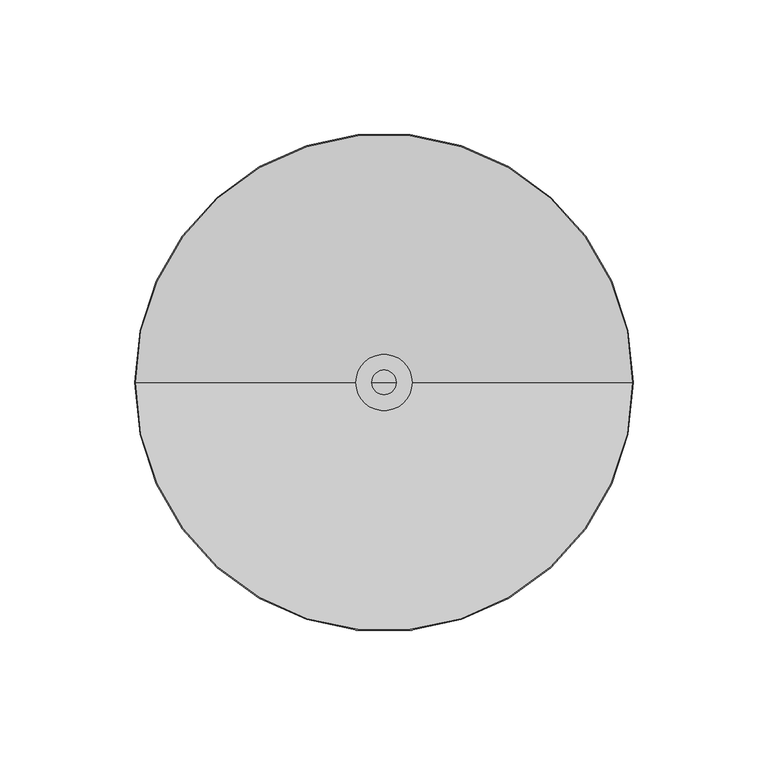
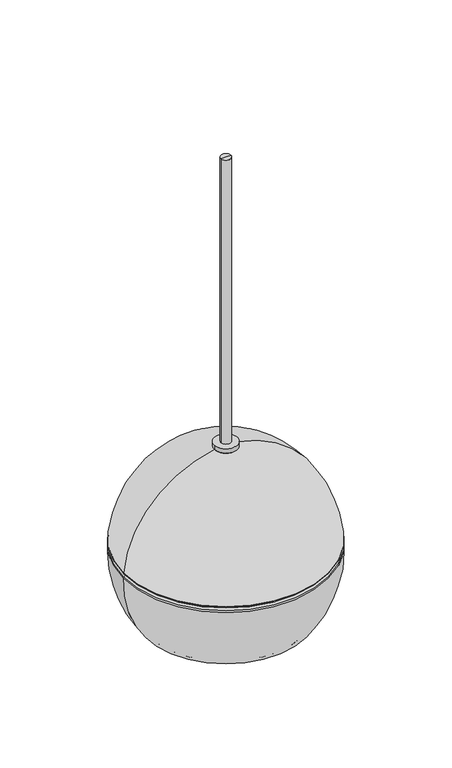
"""IFC4 building model written with IfcOpenShell, lengths in millimetres: proxy geometry, 221216 BIM Data_DL-K16-130T-EN54 : DL-K 16-130/T-EN54."""

from ifc_helpers import new_model, si_unit, point, frame, origin, origin_2d, place, context, project, spatial, polyline, circle_curve, ellipse_curve, trimmed, segment, composite_curve, outline, extrude, source, transform, mapped, element, save
from ifc_brep_helpers import plane_surface, cylinder_surface, revolved_surface, advanced_brep


def communication_devices_e43f43e1(model_context):
    return source(origin(), model_context, "Body", "SolidModel", [
        extrude(outline(composite_curve([segment(trimmed(circle_curve(origin_2d(), 10.4017059), [point((10.4017059, 0.0))], [point((-10.4017059, 0.0))], False, "CARTESIAN"), True, "CONTINUOUS"), segment(trimmed(circle_curve(origin_2d(), 10.4017059), [point((-10.4017059, 0.0))], [point((10.4017059, 0.0))], False, "CARTESIAN"), True, "CONTINUOUS")], self_intersect=False)), frame((0.0, 0.0, 157.0), z_axis=(0.0, 0.0, 1.0), x_axis=(1.0, 0.0, 0.0)), (0.0, 0.0, 1.0), 3.9607511),
        advanced_brep(
        [(4.5469117, 0.0, 431.25), (-4.5469117, 0.0, 431.25), (0.0, 0.0, 431.25), (4.5469117, 0.0, 160.7753513), (-4.5469117, 0.0, 160.7753513), (0.0, 0.0, 160.7753513)],
        [
            (0, 1, circle_curve(frame((0.0, 0.0, 431.25), z_axis=(0.0, 0.0, 1.0), x_axis=(-1.0, 0.0, 0.0)), 4.5469117)),
            (1, 2),
            (2, 0),
            (1, 0, circle_curve(frame((0.0, 0.0, 431.25), z_axis=(0.0, 0.0, 1.0), x_axis=(-1.0, 0.0, 0.0)), 4.5469117)),
            (3, 4, circle_curve(frame((0.0, 0.0, 160.7753513), z_axis=(0.0, 0.0, 1.0), x_axis=(-1.0, 0.0, 0.0)), 4.5469117)),
            (4, 1),
            (0, 3),
            (4, 3, circle_curve(frame((0.0, 0.0, 160.7753513), z_axis=(0.0, 0.0, 1.0), x_axis=(-1.0, 0.0, 0.0)), 4.5469117)),
            (5, 4),
            (3, 5),
        ],
        [
            plane_surface(frame((0.0, 0.0, 431.25), z_axis=(0.0, 0.0, 1.0), x_axis=(-1.0, 0.0, 0.0))),
            cylinder_surface(frame((0.0, 0.0, 424.9889148), z_axis=(0.0, 0.0, -1.0), x_axis=(-1.0, 0.0, 0.0)), 4.5469117),
            plane_surface(frame((0.0, 0.0, 160.7753513), z_axis=(0.0, 0.0, -1.0), x_axis=(-1.0, 0.0, 0.0))),
        ],
        [
            (0, [[1, 2, 3]]),
            (0, [[4, -3, -2]]),
            (1, [[5, 6, -1, 7]]),
            (1, [[8, -7, -4, -6]]),
            (2, [[9, -5, 10]]),
            (2, [[-10, -8, -9]]),
        ],
    ),
        advanced_brep(
        [(69.8611013, 0.0, 1.8271612), (-69.8611013, 0.0, 1.8271612), (0.0, 0.0, 1.8271612), (69.8611013, 0.0, 0.7039085), (-69.8611013, 0.0, 0.7039085), (0.0, 0.0, -0.53125), (-68.6259428, 0.0, -0.53125), (68.6259428, 0.0, -0.53125)],
        [
            (0, 1, circle_curve(frame((0.0, 0.0, 1.8271612), z_axis=(0.0, 0.0, 1.0), x_axis=(-1.0, 0.0, 0.0)), 69.8611013)),
            (1, 2),
            (2, 0),
            (1, 0, circle_curve(frame((0.0, 0.0, 1.8271612), z_axis=(0.0, 0.0, 1.0), x_axis=(-1.0, 0.0, 0.0)), 69.8611013)),
            (3, 4, circle_curve(frame((0.0, 0.0, 0.7039085), z_axis=(0.0, 0.0, 1.0), x_axis=(-1.0, 0.0, 0.0)), 69.8611013)),
            (4, 1),
            (0, 3),
            (4, 3, circle_curve(frame((0.0, 0.0, 0.7039085), z_axis=(0.0, 0.0, 1.0), x_axis=(-1.0, 0.0, 0.0)), 69.8611013)),
            (5, 6),
            (6, 7, circle_curve(frame((0.0, 0.0, -0.53125), z_axis=(0.0, 0.0, -1.0), x_axis=(-1.0, 0.0, 0.0)), 68.6259428)),
            (7, 5),
            (7, 6, circle_curve(frame((0.0, 0.0, -0.53125), z_axis=(0.0, 0.0, -1.0), x_axis=(-1.0, 0.0, 0.0)), 68.6259428)),
            (6, 4, circle_curve(frame((-68.6259428, 0.0, 0.7039085), z_axis=(0.0, 1.0, 0.0), x_axis=(1.0, 0.0, 0.0)), 1.2351585)),
            (3, 7, circle_curve(frame((68.6259428, 0.0, 0.7039085), z_axis=(0.0, 1.0, 0.0), x_axis=(-1.0, 0.0, 0.0)), 1.2351585)),
        ],
        [
            plane_surface(frame((0.0, 0.0, 1.8271612), z_axis=(0.0, 0.0, 1.0), x_axis=(-1.0, 0.0, 0.0))),
            cylinder_surface(frame((0.0, 0.0, 0.25), z_axis=(0.0, 0.0, -1.0), x_axis=(-1.0, 0.0, 0.0)), 69.8611013),
            plane_surface(frame((0.0, 0.0, -0.53125), z_axis=(0.0, 0.0, -1.0), x_axis=(-1.0, 0.0, 0.0))),
            revolved_surface(trimmed(ellipse_curve(frame((-68.6259428, 0.0, 0.7039085), z_axis=(0.0, -1.0, 0.0), x_axis=(1.0, 0.0, 0.0)), 1.2351585, 1.2351585), [point((-69.8611013, 0.0, 0.7039085))], [point((-68.6259428, 0.0, -0.53125))], True, "CARTESIAN"), (0.0, 0.0, 0.25), (0.0, 0.0, -1.0)),
        ],
        [
            (0, [[1, 2, 3]]),
            (0, [[4, -3, -2]]),
            (1, [[5, 6, -1, 7]]),
            (1, [[8, -7, -4, -6]]),
            (2, [[9, 10, 11]]),
            (2, [[-11, 12, -9]]),
            (3, [[-10, 13, -5, 14]]),
            (3, [[-12, -14, -8, -13]]),
        ],
    ),
        advanced_brep(
        [(72.5, 0.0, 0.0), (-72.5, 0.0, 0.0), (-92.5128954, 0.0, 62.8531212), (92.5128954, 0.0, 62.8531212), (69.8516928, 0.0, 0.0), (-69.8516928, 0.0, 0.0), (69.8516928, 0.0, 3.6649979), (-69.8516928, 0.0, 3.6649979), (0.0, 0.0, 3.6649979), (7.6035768, 0.0, 157.0), (-7.6035768, 0.0, 157.0), (0.0, 0.0, 157.0), (10.3375061, 0.0, 156.7722396), (-10.3375061, 0.0, 156.7722396), (92.2053327, 0.0, 68.028242), (-92.2053327, 0.0, 68.028242), (90.4124933, 0.0, 65.7265384), (-90.4124933, 0.0, 65.7265384), (-91.9129953, 0.0, 67.2270403), (91.9129953, 0.0, 67.2270403), (91.9208596, 0.0, 64.2181721), (-91.9208596, 0.0, 64.2181721)],
        [
            (0, 1, circle_curve(frame((0.0, 0.0, 0.0), z_axis=(0.0, 0.0, 1.0), x_axis=(-1.0, 0.0, 0.0)), 72.5)),
            (1, 2, circle_curve(frame((5.9667442, 0.0, 59.5970747), z_axis=(0.0, 1.0, 0.0), x_axis=(1.0, 0.0, 0.0)), 98.5334525)),
            (2, 3, circle_curve(frame((0.0, 0.0, 62.8531212), z_axis=(0.0, 0.0, -1.0), x_axis=(-1.0, 0.0, 0.0)), 92.5128954)),
            (3, 0, circle_curve(frame((-5.9667442, 0.0, 59.5970747), z_axis=(0.0, 1.0, 0.0), x_axis=(-1.0, 0.0, 0.0)), 98.5334525)),
            (1, 0, circle_curve(frame((0.0, 0.0, 0.0), z_axis=(0.0, 0.0, 1.0), x_axis=(-1.0, 0.0, 0.0)), 72.5)),
            (3, 2, circle_curve(frame((0.0, 0.0, 62.8531212), z_axis=(0.0, 0.0, -1.0), x_axis=(-1.0, 0.0, 0.0)), 92.5128954)),
            (4, 5, circle_curve(frame((0.0, 0.0, 0.0), z_axis=(0.0, 0.0, 1.0), x_axis=(-1.0, 0.0, 0.0)), 69.8516928)),
            (5, 1),
            (0, 4),
            (5, 4, circle_curve(frame((0.0, 0.0, 0.0), z_axis=(0.0, 0.0, 1.0), x_axis=(-1.0, 0.0, 0.0)), 69.8516928)),
            (6, 7, circle_curve(frame((0.0, 0.0, 3.6649979), z_axis=(0.0, 0.0, 1.0), x_axis=(-1.0, 0.0, 0.0)), 69.8516928)),
            (7, 5),
            (4, 6),
            (7, 6, circle_curve(frame((0.0, 0.0, 3.6649979), z_axis=(0.0, 0.0, 1.0), x_axis=(-1.0, 0.0, 0.0)), 69.8516928)),
            (8, 7),
            (6, 8),
            (9, 10, circle_curve(frame((0.0, 0.0, 157.0), z_axis=(0.0, 0.0, 1.0), x_axis=(-1.0, 0.0, 0.0)), 7.6035768)),
            (10, 11),
            (11, 9),
            (10, 9, circle_curve(frame((0.0, 0.0, 157.0), z_axis=(0.0, 0.0, 1.0), x_axis=(-1.0, 0.0, 0.0)), 7.6035768)),
            (12, 13, circle_curve(frame((0.0, 0.0, 156.7722396), z_axis=(0.0, 0.0, 1.0), x_axis=(-1.0, 0.0, 0.0)), 10.3375061)),
            (13, 10, circle_curve(frame((-7.6035768, 0.0, 140.4777138), z_axis=(0.0, 1.0, 0.0), x_axis=(1.0, 0.0, 0.0)), 16.5222862)),
            (9, 12, circle_curve(frame((7.6035768, 0.0, 140.4777138), z_axis=(0.0, 1.0, 0.0), x_axis=(-1.0, 0.0, 0.0)), 16.5222862)),
            (13, 12, circle_curve(frame((0.0, 0.0, 156.7722396), z_axis=(0.0, 0.0, 1.0), x_axis=(-1.0, 0.0, 0.0)), 10.3375061)),
            (14, 15, circle_curve(frame((0.0, 0.0, 68.028242), z_axis=(0.0, 0.0, 1.0), x_axis=(-1.0, 0.0, 0.0)), 92.2053327)),
            (15, 13, circle_curve(frame((5.9667442, 0.0, 59.5970747), z_axis=(0.0, 1.0, 0.0), x_axis=(1.0, 0.0, 0.0)), 98.5334525)),
            (12, 14, circle_curve(frame((-5.9667442, 0.0, 59.5970747), z_axis=(0.0, 1.0, 0.0), x_axis=(-1.0, 0.0, 0.0)), 98.5334525)),
            (15, 14, circle_curve(frame((0.0, 0.0, 68.028242), z_axis=(0.0, 0.0, 1.0), x_axis=(-1.0, 0.0, 0.0)), 92.2053327)),
            (16, 17, circle_curve(frame((0.0, 0.0, 65.7265384), z_axis=(0.0, 0.0, 1.0), x_axis=(-1.0, 0.0, 0.0)), 90.4124933)),
            (17, 18),
            (18, 19, circle_curve(frame((0.0, 0.0, 67.2270403), z_axis=(0.0, 0.0, -1.0), x_axis=(-1.0, 0.0, 0.0)), 91.9129953)),
            (19, 16),
            (17, 16, circle_curve(frame((0.0, 0.0, 65.7265384), z_axis=(0.0, 0.0, 1.0), x_axis=(-1.0, 0.0, 0.0)), 90.4124933)),
            (19, 18, circle_curve(frame((0.0, 0.0, 67.2270403), z_axis=(0.0, 0.0, -1.0), x_axis=(-1.0, 0.0, 0.0)), 91.9129953)),
            (18, 15, circle_curve(frame((-91.1982808, 0.0, 67.9417548), z_axis=(0.0, 1.0, 0.0), x_axis=(1.0, 0.0, 0.0)), 1.0107589)),
            (14, 19, circle_curve(frame((91.1982808, 0.0, 67.9417548), z_axis=(0.0, 1.0, 0.0), x_axis=(-1.0, 0.0, 0.0)), 1.0107589)),
            (20, 21, circle_curve(frame((0.0, 0.0, 64.2181721), z_axis=(0.0, 0.0, 1.0), x_axis=(-1.0, 0.0, 0.0)), 91.9208596)),
            (21, 17),
            (16, 20),
            (21, 20, circle_curve(frame((0.0, 0.0, 64.2181721), z_axis=(0.0, 0.0, 1.0), x_axis=(-1.0, 0.0, 0.0)), 91.9208596)),
            (2, 21, circle_curve(frame((-90.4888886, 0.0, 62.7862011), z_axis=(0.0, 1.0, 0.0), x_axis=(1.0, 0.0, 0.0)), 2.0251128)),
            (20, 3, circle_curve(frame((90.4888886, 0.0, 62.7862011), z_axis=(0.0, 1.0, 0.0), x_axis=(-1.0, 0.0, 0.0)), 2.0251128)),
        ],
        [
            revolved_surface(trimmed(ellipse_curve(frame((5.9667442, 0.0, 59.5970747), z_axis=(0.0, -1.0, 0.0), x_axis=(1.0, 0.0, 0.0)), 98.5334525, 98.5334525), [point((-92.5128954, 0.0, 62.8531212))], [point((-72.5, 0.0, 0.0))], True, "CARTESIAN"), (0.0, 0.0, 122.0), (0.0, 0.0, -1.0)),
            plane_surface(frame((0.0, 0.0, 0.0), z_axis=(0.0, 0.0, -1.0), x_axis=(-1.0, 0.0, 0.0))),
            revolved_surface(polyline([(-69.8516928, 0.0, 0.0), (-69.8516928, 0.0, 3.664997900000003)]), (0.0, 0.0, 122.0), (0.0, 0.0, -1.0)),
            plane_surface(frame((0.0, 0.0, 3.6649979), z_axis=(0.0, 0.0, -1.0), x_axis=(-1.0, 0.0, 0.0))),
            plane_surface(frame((0.0, 0.0, 157.0), z_axis=(0.0, 0.0, 1.0), x_axis=(-1.0, 0.0, 0.0))),
            revolved_surface(trimmed(ellipse_curve(frame((-7.6035768, 0.0, 140.4777138), z_axis=(0.0, -1.0, 0.0), x_axis=(1.0, 0.0, 0.0)), 16.5222862, 16.5222862), [point((-7.6035768, 0.0, 157.0))], [point((-10.3375061, 0.0, 156.7722396))], True, "CARTESIAN"), (0.0, 0.0, 122.0), (0.0, 0.0, -1.0)),
            revolved_surface(trimmed(ellipse_curve(frame((5.9667442, 0.0, 59.5970747), z_axis=(0.0, -1.0, 0.0), x_axis=(1.0, 0.0, 0.0)), 98.5334525, 98.5334525), [point((-10.3375061, 0.0, 156.7722396))], [point((-92.2053327, 0.0, 68.028242))], True, "CARTESIAN"), (0.0, 0.0, 122.0), (0.0, 0.0, -1.0)),
            revolved_surface(polyline([(-91.9129953, 0.0, 67.2270403), (-90.4124933, 0.0, 65.7265384)]), (0.0, 0.0, 122.0), (0.0, 0.0, -1.0)),
            revolved_surface(trimmed(ellipse_curve(frame((-91.1982808, 0.0, 67.9417548), z_axis=(0.0, -1.0, 0.0), x_axis=(1.0, 0.0, 0.0)), 1.0107589, 1.0107589), [point((-92.2053327, 0.0, 68.028242))], [point((-91.9129953, 0.0, 67.2270403))], True, "CARTESIAN"), (0.0, 0.0, 122.0), (0.0, 0.0, -1.0)),
            revolved_surface(polyline([(-90.4124933, 0.0, 65.7265384), (-91.9208596, 0.0, 64.2181721)]), (0.0, 0.0, 122.0), (0.0, 0.0, -1.0)),
            revolved_surface(trimmed(ellipse_curve(frame((-90.4888886, 0.0, 62.7862011), z_axis=(0.0, -1.0, 0.0), x_axis=(1.0, 0.0, 0.0)), 2.0251128, 2.0251128), [point((-91.9208596, 0.0, 64.2181721))], [point((-92.5128954, 0.0, 62.8531212))], True, "CARTESIAN"), (0.0, 0.0, 122.0), (0.0, 0.0, -1.0)),
        ],
        [
            (0, [[1, 2, 3, 4]]),
            (0, [[5, -4, 6, -2]]),
            (1, [[7, 8, -1, 9]]),
            (1, [[10, -9, -5, -8]]),
            (2, [[11, 12, -7, 13]]),
            (2, [[14, -13, -10, -12]]),
            (3, [[15, -11, 16]]),
            (3, [[-16, -14, -15]]),
            (4, [[17, 18, 19]]),
            (4, [[20, -19, -18]]),
            (5, [[21, 22, -17, 23]]),
            (5, [[24, -23, -20, -22]]),
            (6, [[25, 26, -21, 27]]),
            (6, [[28, -27, -24, -26]]),
            (7, [[29, 30, 31, 32]]),
            (7, [[33, -32, 34, -30]]),
            (8, [[-31, 35, -25, 36]]),
            (8, [[-34, -36, -28, -35]]),
            (9, [[37, 38, -29, 39]]),
            (9, [[40, -39, -33, -38]]),
            (10, [[-3, 41, -37, 42]]),
            (10, [[-6, -42, -40, -41]]),
        ],
    ),
    ])


if __name__ == "__main__":
    model = new_model("IFC4")
    model_context = context("Model", 3, world=origin())
    ifc_project = project(units=[si_unit("LENGTHUNIT", "METRE", prefix="MILLI")], contexts=[model_context])
    site = spatial("IfcSite", under=ifc_project)
    building = spatial("IfcBuilding", under=site)
    placement = place(None, origin())
    communication_devices_shape = communication_devices_e43f43e1(model_context)
    element("IfcBuildingElementProxy", 1, Name="221216 BIM Data_DL-K16-130T-EN54 : DL-K 16-130/T-EN54", ObjectType="221216 BIM Data_DL-K16-130T-EN54 : DL-K 16-130/T-EN54", at=placement, inside=building, context=model_context, shape_type="MappedRepresentation", body=[
        mapped(communication_devices_shape, transform((0.0, 0.0, 0.0), x_axis=(1.0, 0.0, 0.0), y_axis=(0.0, 1.0, 0.0), z_axis=(0.0, 0.0, 1.0))),
    ])
    save(model, "model.ifc")
